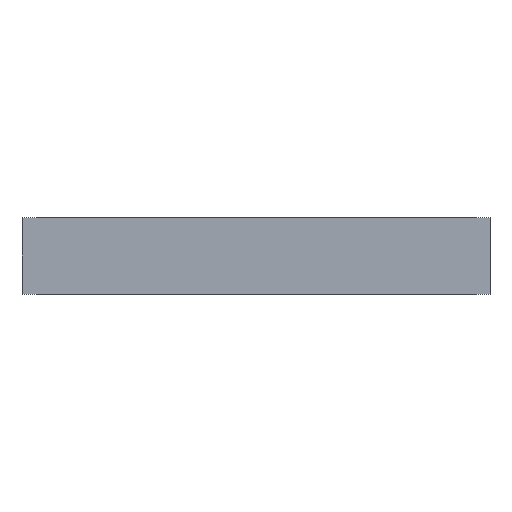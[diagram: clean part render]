
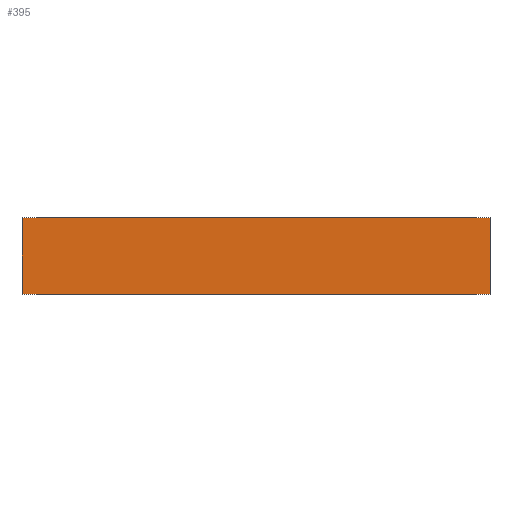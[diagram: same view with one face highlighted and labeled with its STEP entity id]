
A CAD part, front view. The second image highlights one B-rep face of the part: STEP entity #395.
In plain terms, the highlighted planar face has unit normal (0, -1, 0).
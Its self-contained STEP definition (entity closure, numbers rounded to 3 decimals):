
#18 = EDGE_CURVE ( 'NONE', #679, #683, #246, .T. ) ;
#29 = EDGE_CURVE ( 'NONE', #683, #676, #243, .T. ) ;
#34 = EDGE_CURVE ( 'NONE', #665, #676, #220, .T. ) ;
#56 = AXIS2_PLACEMENT_3D ( 'NONE', #468, #461, #460 ) ;
#72 = EDGE_CURVE ( 'NONE', #679, #665, #165, .T. ) ;
#126 = FACE_OUTER_BOUND ( 'NONE', #281, .T. ) ;
#164 = VECTOR ( 'NONE', #573, 1000. ) ;
#165 = LINE ( 'NONE', #574, #164 ) ;
#219 = VECTOR ( 'NONE', #654, 1000. ) ;
#220 = LINE ( 'NONE', #656, #219 ) ;
#228 = VECTOR ( 'NONE', #666, 1000. ) ;
#243 = LINE ( 'NONE', #680, #228 ) ;
#245 = VECTOR ( 'NONE', #446, 1000. ) ;
#246 = LINE ( 'NONE', #464, #245 ) ;
#281 = EDGE_LOOP ( 'NONE', ( #353, #354, #355, #356 ) ) ;
#353 = ORIENTED_EDGE ( 'NONE', *, *, #29, .T. ) ;
#354 = ORIENTED_EDGE ( 'NONE', *, *, #34, .F. ) ;
#355 = ORIENTED_EDGE ( 'NONE', *, *, #72, .F. ) ;
#356 = ORIENTED_EDGE ( 'NONE', *, *, #18, .T. ) ;
#395 = ADVANCED_FACE ( 'NONE', ( #126 ), #472, .F. ) ;
#428 = CARTESIAN_POINT ( 'NONE',  ( -200., 0., 0. ) ) ;
#429 = CARTESIAN_POINT ( 'NONE',  ( -200., 0., 65. ) ) ;
#430 = CARTESIAN_POINT ( 'NONE',  ( 200., 0., 0. ) ) ;
#434 = CARTESIAN_POINT ( 'NONE',  ( 200., 0., 65. ) ) ;
#446 = DIRECTION ( 'NONE',  ( 0., 0., -1. ) ) ;
#460 = DIRECTION ( 'NONE',  ( -1., 0., 0. ) ) ;
#461 = DIRECTION ( 'NONE',  ( 0., 1., 0. ) ) ;
#464 = CARTESIAN_POINT ( 'NONE',  ( -200., 0., 65. ) ) ;
#468 = CARTESIAN_POINT ( 'NONE',  ( -200., 0., 65. ) ) ;
#472 = PLANE ( 'NONE',  #56 ) ;
#573 = DIRECTION ( 'NONE',  ( 1., 0., 0. ) ) ;
#574 = CARTESIAN_POINT ( 'NONE',  ( -200., 0., 65. ) ) ;
#654 = DIRECTION ( 'NONE',  ( 0., 0., -1. ) ) ;
#656 = CARTESIAN_POINT ( 'NONE',  ( 200., 0., 65. ) ) ;
#665 = VERTEX_POINT ( 'NONE', #434 ) ;
#666 = DIRECTION ( 'NONE',  ( 1., 0., 0. ) ) ;
#676 = VERTEX_POINT ( 'NONE', #430 ) ;
#679 = VERTEX_POINT ( 'NONE', #429 ) ;
#680 = CARTESIAN_POINT ( 'NONE',  ( -200., 0., 0. ) ) ;
#683 = VERTEX_POINT ( 'NONE', #428 ) ;
